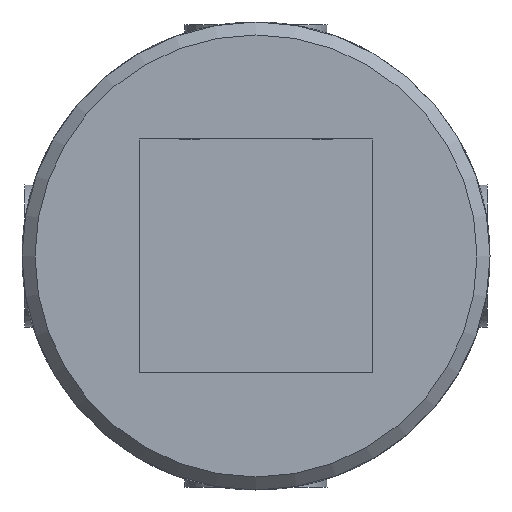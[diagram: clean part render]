
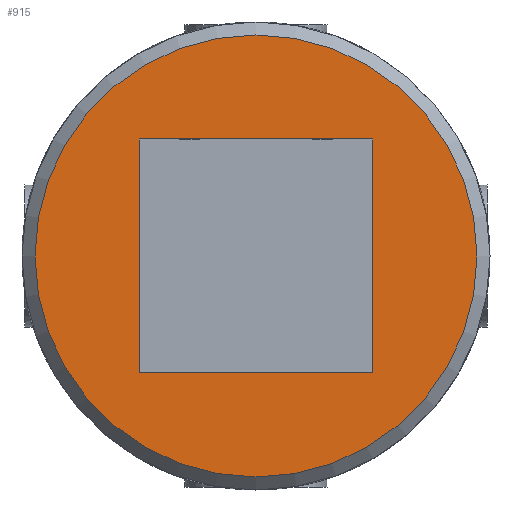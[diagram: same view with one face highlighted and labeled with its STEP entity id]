
A CAD part, front view. The second image highlights one B-rep face of the part: STEP entity #915.
In plain terms, the highlighted planar face has unit normal (0, -1, 0).
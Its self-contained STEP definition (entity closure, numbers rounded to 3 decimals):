
#102=LINE('',#1367,#142);
#106=LINE('',#1390,#146);
#112=LINE('',#1428,#152);
#115=LINE('',#1448,#155);
#142=VECTOR('',#1120,18.);
#146=VECTOR('',#1128,18.);
#152=VECTOR('',#1136,18.);
#155=VECTOR('',#1143,18.);
#182=PLANE('',#995);
#207=FACE_BOUND('',#311,.T.);
#240=FACE_OUTER_BOUND('',#310,.T.);
#310=EDGE_LOOP('',(#729));
#311=EDGE_LOOP('',(#730,#731,#732,#733));
#364=CIRCLE('',#993,17.);
#408=VERTEX_POINT('',#1364);
#409=VERTEX_POINT('',#1366);
#415=VERTEX_POINT('',#1389);
#424=VERTEX_POINT('',#1426);
#431=VERTEX_POINT('',#1495);
#503=EDGE_CURVE('',#409,#408,#102,.T.);
#510=EDGE_CURVE('',#415,#409,#106,.T.);
#520=EDGE_CURVE('',#408,#424,#112,.T.);
#526=EDGE_CURVE('',#424,#415,#115,.T.);
#537=EDGE_CURVE('',#431,#431,#364,.T.);
#729=ORIENTED_EDGE('',*,*,#537,.F.);
#730=ORIENTED_EDGE('',*,*,#503,.T.);
#731=ORIENTED_EDGE('',*,*,#520,.T.);
#732=ORIENTED_EDGE('',*,*,#526,.T.);
#733=ORIENTED_EDGE('',*,*,#510,.T.);
#915=ADVANCED_FACE('',(#240,#207),#182,.F.);
#993=AXIS2_PLACEMENT_3D('',#1496,#1172,#1173);
#995=AXIS2_PLACEMENT_3D('',#1720,#1180,#1181);
#1120=DIRECTION('',(0.,0.,-1.));
#1128=DIRECTION('',(1.,0.,0.));
#1136=DIRECTION('',(-1.,0.,0.));
#1143=DIRECTION('',(0.,0.,1.));
#1172=DIRECTION('center_axis',(0.,1.,0.));
#1173=DIRECTION('ref_axis',(1.,0.,0.));
#1180=DIRECTION('center_axis',(0.,1.,0.));
#1181=DIRECTION('ref_axis',(0.,0.,1.));
#1364=CARTESIAN_POINT('',(9.,-45.5,-9.));
#1366=CARTESIAN_POINT('',(9.,-45.5,9.));
#1367=CARTESIAN_POINT('',(9.,-45.5,4.5));
#1389=CARTESIAN_POINT('',(-9.,-45.5,9.));
#1390=CARTESIAN_POINT('',(-4.5,-45.5,9.));
#1426=CARTESIAN_POINT('',(-9.,-45.5,-9.));
#1428=CARTESIAN_POINT('',(4.5,-45.5,-9.));
#1448=CARTESIAN_POINT('',(-9.,-45.5,-4.5));
#1495=CARTESIAN_POINT('',(-17.,-45.5,0.));
#1496=CARTESIAN_POINT('Origin',(0.,-45.5,0.));
#1720=CARTESIAN_POINT('Origin',(0.,-45.5,0.));
